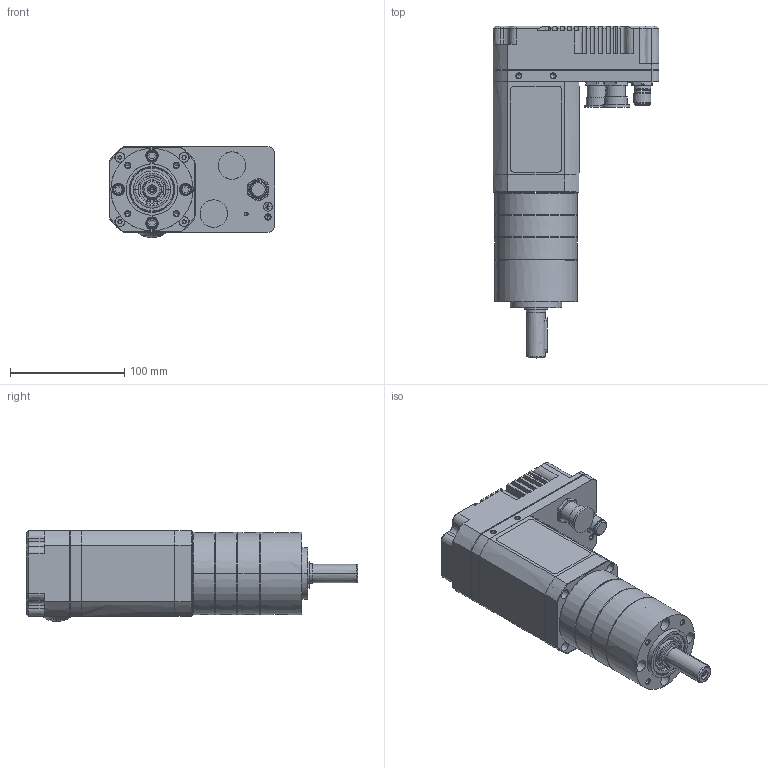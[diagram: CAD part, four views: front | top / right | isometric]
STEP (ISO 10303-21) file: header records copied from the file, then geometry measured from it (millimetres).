
FILE_DESCRIPTION((''),'2;1');
FILE_NAME('8035D_3STAGES','2018-08-29T',('ALECMA1'),('CROUZET-AUTOMATISMES'),'CREO PARAMETRIC BY PTC INC, 2017170','CREO PARAMETRIC BY PTC INC, 2017170','');
FILE_SCHEMA(('AP203_CONFIGURATION_CONTROLLED_3D_DESIGN_OF_MECHANICAL_PARTS_AND_ASSEMBLIES_MIM_LF { 1 0 10303 403 2 1 2 }'));
Products named in the file (1): 8035D_3STAGES
Bounding box: 145 x 290.45 x 79.7 mm (x, y, z)
Surface area: 145680 mm2 (no closed solid volume)
Topology: 0 solids, 0 shells, 691 faces, 3571 edges, 3529 vertices
Faces by surface type: bspline 663, torus 24, sphere 4
Entity records: 68134 total; most frequent: CARTESIAN_POINT 29740, DIRECTION 5659, TRIMMED_CURVE 4805, VECTOR 4032, LINE 4032, DEFINITIONAL_REPRESENTATION 3507, PCURVE 3507, COMPOSITE_CURVE_SEGMENT 3507
